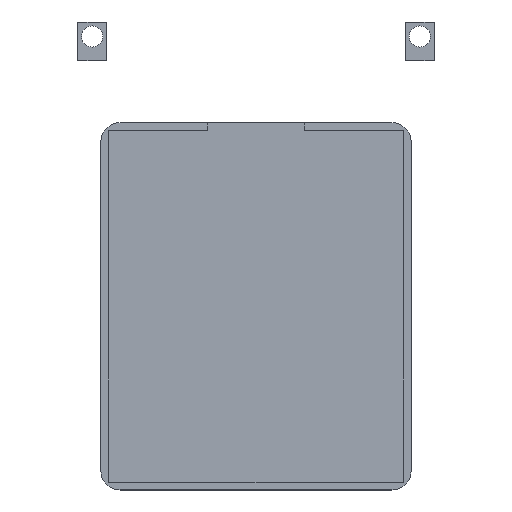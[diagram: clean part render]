
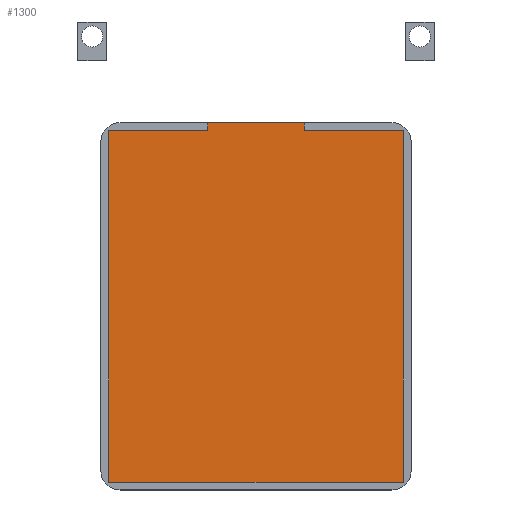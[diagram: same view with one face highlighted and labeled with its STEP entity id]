
A CAD part, top view. The second image highlights one B-rep face of the part: STEP entity #1300.
In plain terms, the highlighted planar face has unit normal (0, 0, 1).
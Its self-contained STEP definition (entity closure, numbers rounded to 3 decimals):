
#380 = PLANE('',#381);
#381 = AXIS2_PLACEMENT_3D('',#382,#383,#384);
#382 = CARTESIAN_POINT('',(-14.1,39.05,5.2));
#383 = DIRECTION('',(0.,1.,0.));
#384 = DIRECTION('',(1.,0.,0.));
#407 = PLANE('',#408);
#408 = AXIS2_PLACEMENT_3D('',#409,#410,#411);
#409 = CARTESIAN_POINT('',(5.,36.55,6.4));
#410 = DIRECTION('',(1.,0.,-0.));
#411 = DIRECTION('',(0.,0.,1.));
#433 = PLANE('',#434);
#434 = AXIS2_PLACEMENT_3D('',#435,#436,#437);
#435 = CARTESIAN_POINT('',(-15.3,38.25,6.3));
#436 = DIRECTION('',(-0.,1.,0.));
#437 = DIRECTION('',(0.,0.,1.));
#459 = PLANE('',#460);
#460 = AXIS2_PLACEMENT_3D('',#461,#462,#463);
#461 = CARTESIAN_POINT('',(15.3,1.75,6.3));
#462 = DIRECTION('',(1.,0.,-0.));
#463 = DIRECTION('',(0.,0.,1.));
#485 = PLANE('',#486);
#486 = AXIS2_PLACEMENT_3D('',#487,#488,#489);
#487 = CARTESIAN_POINT('',(-15.3,1.75,6.3));
#488 = DIRECTION('',(-0.,1.,0.));
#489 = DIRECTION('',(0.,0.,1.));
#511 = PLANE('',#512);
#512 = AXIS2_PLACEMENT_3D('',#513,#514,#515);
#513 = CARTESIAN_POINT('',(-15.3,1.75,6.3));
#514 = DIRECTION('',(1.,0.,-0.));
#515 = DIRECTION('',(0.,0.,1.));
#537 = PLANE('',#538);
#538 = AXIS2_PLACEMENT_3D('',#539,#540,#541);
#539 = CARTESIAN_POINT('',(-15.3,38.25,6.3));
#540 = DIRECTION('',(-0.,1.,0.));
#541 = DIRECTION('',(0.,0.,1.));
#563 = PLANE('',#564);
#564 = AXIS2_PLACEMENT_3D('',#565,#566,#567);
#565 = CARTESIAN_POINT('',(-5.,36.55,6.4));
#566 = DIRECTION('',(1.,0.,-0.));
#567 = DIRECTION('',(0.,0.,1.));
#839 = VERTEX_POINT('',#840);
#840 = CARTESIAN_POINT('',(-5.,39.05,6.4));
#859 = EDGE_CURVE('',#839,#860,#862,.T.);
#860 = VERTEX_POINT('',#861);
#861 = CARTESIAN_POINT('',(5.,39.05,6.4));
#862 = SURFACE_CURVE('',#863,(#867,#873),.PCURVE_S1.);
#863 = LINE('',#864,#865);
#864 = CARTESIAN_POINT('',(-9.55,39.05,6.4));
#865 = VECTOR('',#866,1.);
#866 = DIRECTION('',(1.,0.,0.));
#867 = PCURVE('',#380,#868);
#868 = DEFINITIONAL_REPRESENTATION('',(#869),#872);
#869 = B_SPLINE_CURVE_WITH_KNOTS('',1,(#870,#871),.UNSPECIFIED.,.F.,.F.,
  (2,2),(4.55,14.55),.PIECEWISE_BEZIER_KNOTS.);
#870 = CARTESIAN_POINT('',(9.1,-1.2));
#871 = CARTESIAN_POINT('',(19.1,-1.2));
#872 = ( GEOMETRIC_REPRESENTATION_CONTEXT(2) 
PARAMETRIC_REPRESENTATION_CONTEXT() REPRESENTATION_CONTEXT('2D SPACE',''
  ) );
#873 = PCURVE('',#874,#879);
#874 = PLANE('',#875);
#875 = AXIS2_PLACEMENT_3D('',#876,#877,#878);
#876 = CARTESIAN_POINT('',(-5.,36.55,6.4));
#877 = DIRECTION('',(0.,0.,1.));
#878 = DIRECTION('',(1.,0.,-0.));
#879 = DEFINITIONAL_REPRESENTATION('',(#880),#884);
#880 = LINE('',#881,#882);
#881 = CARTESIAN_POINT('',(-4.55,2.5));
#882 = VECTOR('',#883,1.);
#883 = DIRECTION('',(1.,0.));
#884 = ( GEOMETRIC_REPRESENTATION_CONTEXT(2) 
PARAMETRIC_REPRESENTATION_CONTEXT() REPRESENTATION_CONTEXT('2D SPACE',''
  ) );
#932 = VERTEX_POINT('',#933);
#933 = CARTESIAN_POINT('',(-5.,38.25,6.4));
#952 = EDGE_CURVE('',#932,#839,#953,.T.);
#953 = SURFACE_CURVE('',#954,(#958,#965),.PCURVE_S1.);
#954 = LINE('',#955,#956);
#955 = CARTESIAN_POINT('',(-5.,36.55,6.4));
#956 = VECTOR('',#957,1.);
#957 = DIRECTION('',(-0.,1.,0.));
#958 = PCURVE('',#563,#959);
#959 = DEFINITIONAL_REPRESENTATION('',(#960),#964);
#960 = LINE('',#961,#962);
#961 = CARTESIAN_POINT('',(0.,0.));
#962 = VECTOR('',#963,1.);
#963 = DIRECTION('',(0.,-1.));
#964 = ( GEOMETRIC_REPRESENTATION_CONTEXT(2) 
PARAMETRIC_REPRESENTATION_CONTEXT() REPRESENTATION_CONTEXT('2D SPACE',''
  ) );
#965 = PCURVE('',#874,#966);
#966 = DEFINITIONAL_REPRESENTATION('',(#967),#971);
#967 = LINE('',#968,#969);
#968 = CARTESIAN_POINT('',(0.,0.));
#969 = VECTOR('',#970,1.);
#970 = DIRECTION('',(0.,1.));
#971 = ( GEOMETRIC_REPRESENTATION_CONTEXT(2) 
PARAMETRIC_REPRESENTATION_CONTEXT() REPRESENTATION_CONTEXT('2D SPACE',''
  ) );
#979 = EDGE_CURVE('',#932,#980,#982,.T.);
#980 = VERTEX_POINT('',#981);
#981 = CARTESIAN_POINT('',(-15.3,38.25,6.4));
#982 = SURFACE_CURVE('',#983,(#987,#993),.PCURVE_S1.);
#983 = LINE('',#984,#985);
#984 = CARTESIAN_POINT('',(-7.65,38.25,6.4));
#985 = VECTOR('',#986,1.);
#986 = DIRECTION('',(-1.,-0.,0.));
#987 = PCURVE('',#537,#988);
#988 = DEFINITIONAL_REPRESENTATION('',(#989),#992);
#989 = B_SPLINE_CURVE_WITH_KNOTS('',1,(#990,#991),.UNSPECIFIED.,.F.,.F.,
  (2,2),(-22.95,7.65),.PIECEWISE_BEZIER_KNOTS.);
#990 = CARTESIAN_POINT('',(0.1,30.6));
#991 = CARTESIAN_POINT('',(0.1,0.));
#992 = ( GEOMETRIC_REPRESENTATION_CONTEXT(2) 
PARAMETRIC_REPRESENTATION_CONTEXT() REPRESENTATION_CONTEXT('2D SPACE',''
  ) );
#993 = PCURVE('',#874,#994);
#994 = DEFINITIONAL_REPRESENTATION('',(#995),#999);
#995 = LINE('',#996,#997);
#996 = CARTESIAN_POINT('',(-2.65,1.7));
#997 = VECTOR('',#998,1.);
#998 = DIRECTION('',(-1.,0.));
#999 = ( GEOMETRIC_REPRESENTATION_CONTEXT(2) 
PARAMETRIC_REPRESENTATION_CONTEXT() REPRESENTATION_CONTEXT('2D SPACE',''
  ) );
#1027 = VERTEX_POINT('',#1028);
#1028 = CARTESIAN_POINT('',(-15.3,1.75,6.4));
#1049 = EDGE_CURVE('',#1027,#980,#1050,.T.);
#1050 = SURFACE_CURVE('',#1051,(#1055,#1061),.PCURVE_S1.);
#1051 = LINE('',#1052,#1053);
#1052 = CARTESIAN_POINT('',(-15.3,10.875,6.4));
#1053 = VECTOR('',#1054,1.);
#1054 = DIRECTION('',(-0.,1.,0.));
#1055 = PCURVE('',#511,#1056);
#1056 = DEFINITIONAL_REPRESENTATION('',(#1057),#1060);
#1057 = B_SPLINE_CURVE_WITH_KNOTS('',1,(#1058,#1059),.UNSPECIFIED.,.F.,
  .F.,(2,2),(-9.125,27.375),.PIECEWISE_BEZIER_KNOTS.);
#1058 = CARTESIAN_POINT('',(0.1,0.));
#1059 = CARTESIAN_POINT('',(0.1,-36.5));
#1060 = ( GEOMETRIC_REPRESENTATION_CONTEXT(2) 
PARAMETRIC_REPRESENTATION_CONTEXT() REPRESENTATION_CONTEXT('2D SPACE',''
  ) );
#1061 = PCURVE('',#874,#1062);
#1062 = DEFINITIONAL_REPRESENTATION('',(#1063),#1067);
#1063 = LINE('',#1064,#1065);
#1064 = CARTESIAN_POINT('',(-10.3,-25.675));
#1065 = VECTOR('',#1066,1.);
#1066 = DIRECTION('',(0.,1.));
#1067 = ( GEOMETRIC_REPRESENTATION_CONTEXT(2) 
PARAMETRIC_REPRESENTATION_CONTEXT() REPRESENTATION_CONTEXT('2D SPACE',''
  ) );
#1075 = VERTEX_POINT('',#1076);
#1076 = CARTESIAN_POINT('',(15.3,1.75,6.4));
#1097 = EDGE_CURVE('',#1075,#1027,#1098,.T.);
#1098 = SURFACE_CURVE('',#1099,(#1103,#1109),.PCURVE_S1.);
#1099 = LINE('',#1100,#1101);
#1100 = CARTESIAN_POINT('',(-7.65,1.75,6.4));
#1101 = VECTOR('',#1102,1.);
#1102 = DIRECTION('',(-1.,-0.,0.));
#1103 = PCURVE('',#485,#1104);
#1104 = DEFINITIONAL_REPRESENTATION('',(#1105),#1108);
#1105 = B_SPLINE_CURVE_WITH_KNOTS('',1,(#1106,#1107),.UNSPECIFIED.,.F.,
  .F.,(2,2),(-22.95,7.65),.PIECEWISE_BEZIER_KNOTS.);
#1106 = CARTESIAN_POINT('',(0.1,30.6));
#1107 = CARTESIAN_POINT('',(0.1,0.));
#1108 = ( GEOMETRIC_REPRESENTATION_CONTEXT(2) 
PARAMETRIC_REPRESENTATION_CONTEXT() REPRESENTATION_CONTEXT('2D SPACE',''
  ) );
#1109 = PCURVE('',#874,#1110);
#1110 = DEFINITIONAL_REPRESENTATION('',(#1111),#1115);
#1111 = LINE('',#1112,#1113);
#1112 = CARTESIAN_POINT('',(-2.65,-34.8));
#1113 = VECTOR('',#1114,1.);
#1114 = DIRECTION('',(-1.,0.));
#1115 = ( GEOMETRIC_REPRESENTATION_CONTEXT(2) 
PARAMETRIC_REPRESENTATION_CONTEXT() REPRESENTATION_CONTEXT('2D SPACE',''
  ) );
#1123 = EDGE_CURVE('',#1075,#1124,#1126,.T.);
#1124 = VERTEX_POINT('',#1125);
#1125 = CARTESIAN_POINT('',(15.3,38.25,6.4));
#1126 = SURFACE_CURVE('',#1127,(#1131,#1137),.PCURVE_S1.);
#1127 = LINE('',#1128,#1129);
#1128 = CARTESIAN_POINT('',(15.3,10.875,6.4));
#1129 = VECTOR('',#1130,1.);
#1130 = DIRECTION('',(-0.,1.,0.));
#1131 = PCURVE('',#459,#1132);
#1132 = DEFINITIONAL_REPRESENTATION('',(#1133),#1136);
#1133 = B_SPLINE_CURVE_WITH_KNOTS('',1,(#1134,#1135),.UNSPECIFIED.,.F.,
  .F.,(2,2),(-9.125,27.375),.PIECEWISE_BEZIER_KNOTS.);
#1134 = CARTESIAN_POINT('',(0.1,0.));
#1135 = CARTESIAN_POINT('',(0.1,-36.5));
#1136 = ( GEOMETRIC_REPRESENTATION_CONTEXT(2) 
PARAMETRIC_REPRESENTATION_CONTEXT() REPRESENTATION_CONTEXT('2D SPACE',''
  ) );
#1137 = PCURVE('',#874,#1138);
#1138 = DEFINITIONAL_REPRESENTATION('',(#1139),#1143);
#1139 = LINE('',#1140,#1141);
#1140 = CARTESIAN_POINT('',(20.3,-25.675));
#1141 = VECTOR('',#1142,1.);
#1142 = DIRECTION('',(0.,1.));
#1143 = ( GEOMETRIC_REPRESENTATION_CONTEXT(2) 
PARAMETRIC_REPRESENTATION_CONTEXT() REPRESENTATION_CONTEXT('2D SPACE',''
  ) );
#1171 = EDGE_CURVE('',#1124,#1172,#1174,.T.);
#1172 = VERTEX_POINT('',#1173);
#1173 = CARTESIAN_POINT('',(5.,38.25,6.4));
#1174 = SURFACE_CURVE('',#1175,(#1179,#1185),.PCURVE_S1.);
#1175 = LINE('',#1176,#1177);
#1176 = CARTESIAN_POINT('',(-7.65,38.25,6.4));
#1177 = VECTOR('',#1178,1.);
#1178 = DIRECTION('',(-1.,-0.,0.));
#1179 = PCURVE('',#433,#1180);
#1180 = DEFINITIONAL_REPRESENTATION('',(#1181),#1184);
#1181 = B_SPLINE_CURVE_WITH_KNOTS('',1,(#1182,#1183),.UNSPECIFIED.,.F.,
  .F.,(2,2),(-22.95,7.65),.PIECEWISE_BEZIER_KNOTS.);
#1182 = CARTESIAN_POINT('',(0.1,30.6));
#1183 = CARTESIAN_POINT('',(0.1,0.));
#1184 = ( GEOMETRIC_REPRESENTATION_CONTEXT(2) 
PARAMETRIC_REPRESENTATION_CONTEXT() REPRESENTATION_CONTEXT('2D SPACE',''
  ) );
#1185 = PCURVE('',#874,#1186);
#1186 = DEFINITIONAL_REPRESENTATION('',(#1187),#1191);
#1187 = LINE('',#1188,#1189);
#1188 = CARTESIAN_POINT('',(-2.65,1.7));
#1189 = VECTOR('',#1190,1.);
#1190 = DIRECTION('',(-1.,0.));
#1191 = ( GEOMETRIC_REPRESENTATION_CONTEXT(2) 
PARAMETRIC_REPRESENTATION_CONTEXT() REPRESENTATION_CONTEXT('2D SPACE',''
  ) );
#1217 = EDGE_CURVE('',#1172,#860,#1218,.T.);
#1218 = SURFACE_CURVE('',#1219,(#1223,#1230),.PCURVE_S1.);
#1219 = LINE('',#1220,#1221);
#1220 = CARTESIAN_POINT('',(5.,36.55,6.4));
#1221 = VECTOR('',#1222,1.);
#1222 = DIRECTION('',(-0.,1.,0.));
#1223 = PCURVE('',#407,#1224);
#1224 = DEFINITIONAL_REPRESENTATION('',(#1225),#1229);
#1225 = LINE('',#1226,#1227);
#1226 = CARTESIAN_POINT('',(0.,0.));
#1227 = VECTOR('',#1228,1.);
#1228 = DIRECTION('',(0.,-1.));
#1229 = ( GEOMETRIC_REPRESENTATION_CONTEXT(2) 
PARAMETRIC_REPRESENTATION_CONTEXT() REPRESENTATION_CONTEXT('2D SPACE',''
  ) );
#1230 = PCURVE('',#874,#1231);
#1231 = DEFINITIONAL_REPRESENTATION('',(#1232),#1236);
#1232 = LINE('',#1233,#1234);
#1233 = CARTESIAN_POINT('',(10.,0.));
#1234 = VECTOR('',#1235,1.);
#1235 = DIRECTION('',(0.,1.));
#1236 = ( GEOMETRIC_REPRESENTATION_CONTEXT(2) 
PARAMETRIC_REPRESENTATION_CONTEXT() REPRESENTATION_CONTEXT('2D SPACE',''
  ) );
#1300 = ADVANCED_FACE('',(#1301),#874,.T.);
#1301 = FACE_BOUND('',#1302,.T.);
#1302 = EDGE_LOOP('',(#1303,#1304,#1305,#1306,#1307,#1308,#1309,#1310));
#1303 = ORIENTED_EDGE('',*,*,#952,.F.);
#1304 = ORIENTED_EDGE('',*,*,#979,.T.);
#1305 = ORIENTED_EDGE('',*,*,#1049,.F.);
#1306 = ORIENTED_EDGE('',*,*,#1097,.F.);
#1307 = ORIENTED_EDGE('',*,*,#1123,.T.);
#1308 = ORIENTED_EDGE('',*,*,#1171,.T.);
#1309 = ORIENTED_EDGE('',*,*,#1217,.T.);
#1310 = ORIENTED_EDGE('',*,*,#859,.F.);
